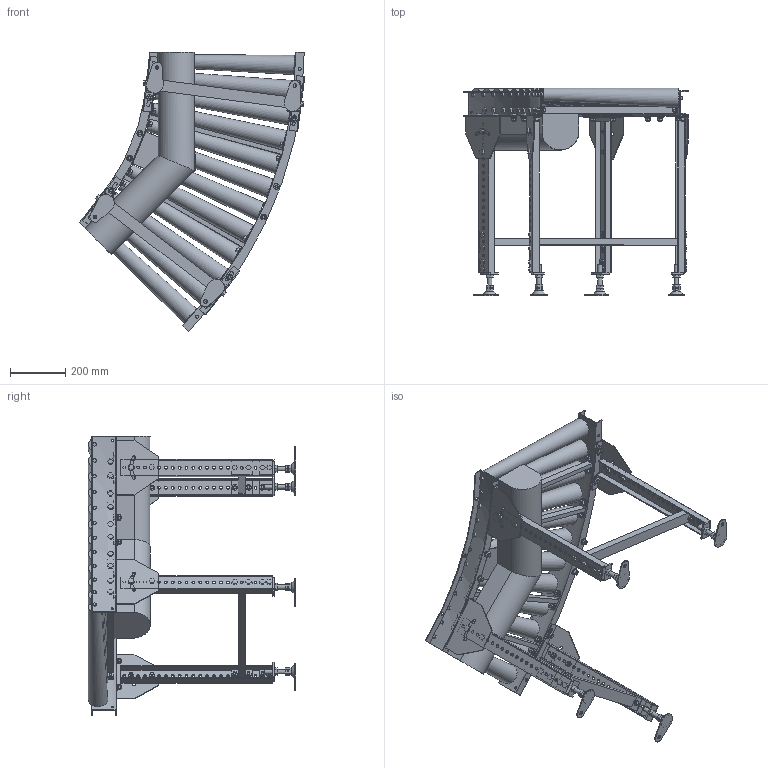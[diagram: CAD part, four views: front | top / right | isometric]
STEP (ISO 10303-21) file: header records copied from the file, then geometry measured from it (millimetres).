
FILE_DESCRIPTION( (''), '2;1');
FILE_NAME ('WEB-MCD-50-500-75-45°-C9.stp','2026-02-20T12:16:29',(''),(''),'spGate 20.6.2 (****-****-****-****)','','');
FILE_SCHEMA (('AUTOMOTIVE_DESIGN'));
Length unit declared in the file: millimetre
Products named in the file (34): WEB-MCD-50-500-75-45_-C9; TEMP_X_T-prt0; TEMP_X_T-prt1; TEMP_X_T-prt2; TEMP_X_T-prt3; TEMP_X_T-prt4; TEMP_X_T-prt5; TEMP_X_T-prt6; TEMP_X_T-prt7; TEMP_X_T-prt8; TEMP_X_T-prt9; TEMP_X_T-prt10; TEMP_X_T-prt11; TEMP_X_T-prt12; TEMP_X_T-prt13; TEMP_X_T-prt14; TEMP_X_T-prt15; TEMP_X_T-prt16; TEMP_X_T-prt17; TEMP_X_T-prt18; TEMP_X_T-prt19; TEMP_X_T-prt20; TEMP_X_T-prt21; TEMP_X_T-prt22; TEMP_X_T-prt23; TEMP_X_T-prt24; TEMP_X_T-prt25; TEMP_X_T-prt26; TEMP_X_T-prt27; TEMP_X_T-prt28; TEMP_X_T-prt29; TEMP_X_T-prt30; TEMP_X_T-prt31; TEMP_X_T-prt32
Assembly tree (33 placements, depth 2):
  WEB-MCD-50-500-75-45_-C9
    TEMP_X_T-prt0
    TEMP_X_T-prt1
    TEMP_X_T-prt2
    TEMP_X_T-prt3
    TEMP_X_T-prt4
    TEMP_X_T-prt5
    TEMP_X_T-prt6
    TEMP_X_T-prt7
    TEMP_X_T-prt8
    TEMP_X_T-prt9
    TEMP_X_T-prt10
    TEMP_X_T-prt11
    TEMP_X_T-prt12
    TEMP_X_T-prt13
    TEMP_X_T-prt14
    TEMP_X_T-prt15
    TEMP_X_T-prt16
    TEMP_X_T-prt17
    TEMP_X_T-prt18
    TEMP_X_T-prt19
    TEMP_X_T-prt20
    TEMP_X_T-prt21
    TEMP_X_T-prt22
    TEMP_X_T-prt23
    TEMP_X_T-prt24
    TEMP_X_T-prt25
    TEMP_X_T-prt26
    TEMP_X_T-prt27
    TEMP_X_T-prt28
    TEMP_X_T-prt29
    TEMP_X_T-prt30
    TEMP_X_T-prt31
    TEMP_X_T-prt32
Bounding box: 817 x 749.97 x 1011.16 mm (x, y, z)
Volume: 32763257.8 mm3; surface area: 3321742.8 mm2
Topology: 33 solids, 53 shells, 2350 faces, 5648 edges, 3636 vertices
Faces by surface type: plane 1966, cylinder 368, bspline 16
Full cylindrical faces by diameter (mm): 8.5 x4, 10 x68, 10.5 x92, 11 x4, 12 x24, 13 x4, 14 x6, 16 x4, 18.4 x46, 18.5 x8, 21 x34
Entity records: 117917 total; most frequent: CARTESIAN_POINT 14480, DIRECTION 11793, ORIENTED_EDGE 11296, COLOUR_RGB 8031, PRESENTATION_STYLE_ASSIGNMENT 8031, STYLED_ITEM 8031, EDGE_CURVE 5648, DRAUGHTING_PRE_DEFINED_CURVE_FONT 5648
